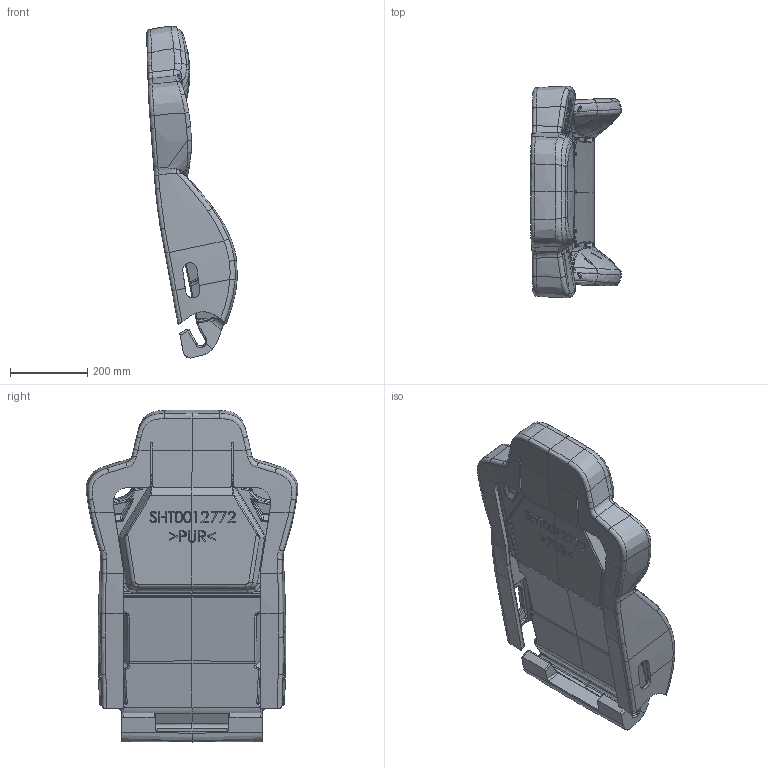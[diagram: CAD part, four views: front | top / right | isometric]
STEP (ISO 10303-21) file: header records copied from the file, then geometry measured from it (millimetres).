
FILE_DESCRIPTION(('CATIA V5 STEP Exchange'),'2;1');
FILE_NAME('C:\Users\zhangchangjiang\Desktop\SHT0012772.stp','2021-02-04T05:55:59+00:00',('none'),('none'),'CATIA Version 5 Release 20 GA (IN-10)','CATIA V5 STEP AP214','none');
FILE_SCHEMA(('AUTOMOTIVE_DESIGN { 1 0 10303 214 1 1 1 1 }'));
Products named in the file (7): SHT0012772; SLT0001093; SHT0010551; SHT0010552; SHT0010553; SHT0010619; T712靠背发泡
Assembly tree (7 placements, depth 2):
  SHT0012772
    SLT0001093
    SHT0010551
    SHT0010552  x2
    SHT0010553
    SHT0010619
    T712靠背发泡
Bounding box: 234.81 x 548.12 x 860.56 mm (x, y, z)
Volume: 22848094.8 mm3; surface area: 1540544.6 mm2
Topology: 7 solids, 7 shells, 4697 faces, 12050 edges, 6929 vertices
Faces by surface type: bspline 2085, plane 1476, cylinder 509, sphere 453, torus 98, extrusion 54, revolution 22
Entity records: 328696 total; most frequent: CARTESIAN_POINT 238427, ORIENTED_EDGE 23114, EDGE_CURVE 11557, DIRECTION 10386, VERTEX_POINT 6917, B_SPLINE_CURVE_WITH_KNOTS 6086, EDGE_LOOP 4724, VECTOR 4686
